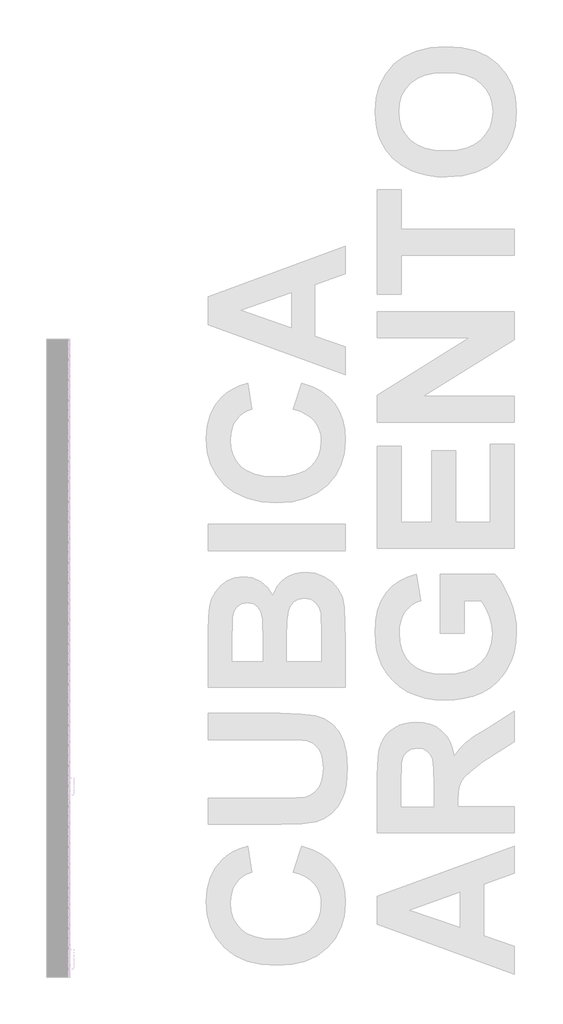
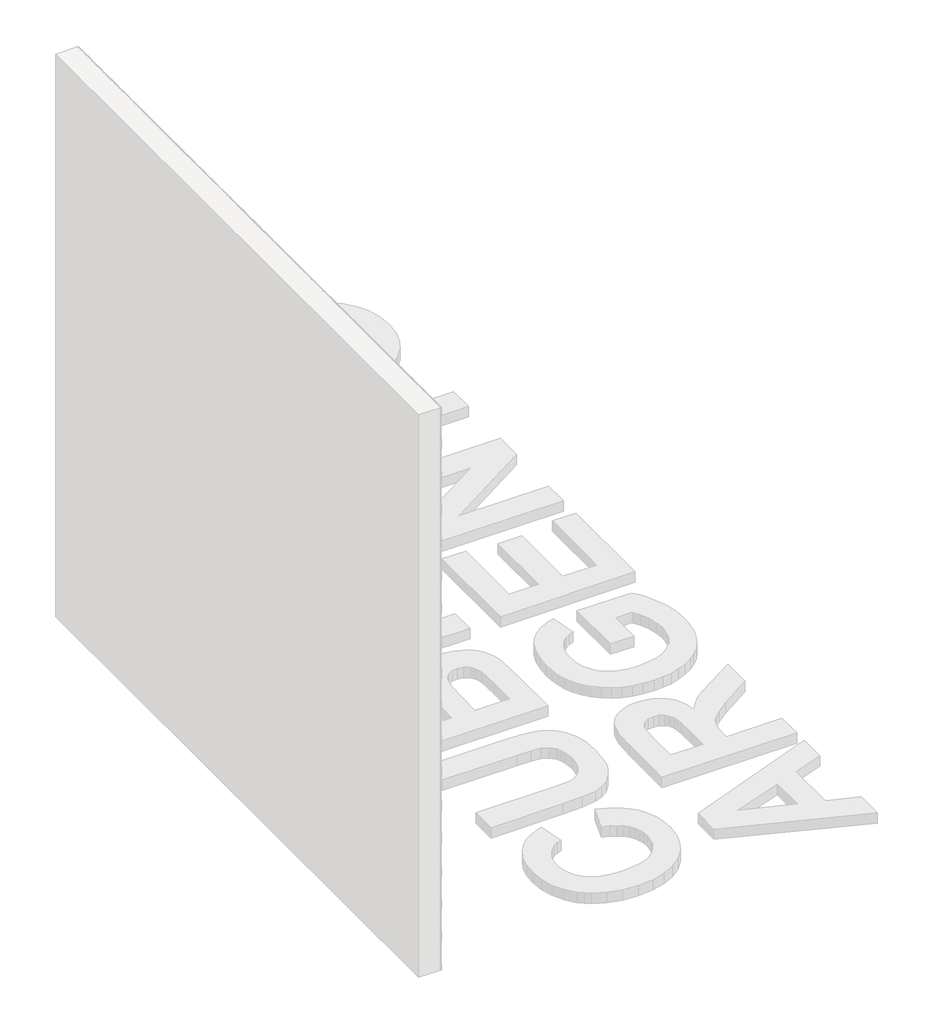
# One storey, part 15 of 121: 145 proxies.
"""IFC4 building model written with IfcOpenShell, lengths in millimetres."""

from ifc_helpers import new_model, si_unit, origin, place, context, project, spatial, transform, mapped, element, save
from components import generic_models_b2b2c5c1, generic_models_9bf73f6f, generic_models_5d175859

model = new_model("IFC4")

# Units and contexts
model_context = context("Model", 3, world=origin())
ifc_project = project(units=[si_unit("LENGTHUNIT", "METRE", prefix="MILLI")], contexts=[model_context])

# Site, building, storey
site = spatial("IfcSite", under=ifc_project)
building = spatial("IfcBuilding", under=site)
storey = spatial("IfcBuildingStorey", under=building, Name="PORTOBELLO - SHOWROOM", Elevation=0.0)

# Proxies
placement = place(None, origin())
generic_models_shape = generic_models_b2b2c5c1(model_context)
element("IfcBuildingElementProxy", 1, Name="PBSHOP - CUBICA ARGENTO 4,8X8,3 : CUBICA ARGENTO - POSIÇÃO 01", ObjectType="PBSHOP - CUBICA ARGENTO 4,8X8,3 : CUBICA ARGENTO - POSIÇÃO 01", at=placement, inside=storey, context=model_context, shape_type="MappedRepresentation", body=[
    mapped(generic_models_shape, transform((150369.5341846, -4995.4435811, 749.8339122), x_axis=(0.0, 1.0, 0.0), y_axis=(0.0, 0.0, 1.0), z_axis=(1.0, 0.0, 0.0))),
])
element("IfcBuildingElementProxy", 2, Name="PBSHOP - CUBICA ARGENTO 4,8X8,3 : CUBICA ARGENTO - POSIÇÃO 01", ObjectType="PBSHOP - CUBICA ARGENTO 4,8X8,3 : CUBICA ARGENTO - POSIÇÃO 01", at=placement, inside=storey, context=model_context, shape_type="MappedRepresentation", body=[
    mapped(generic_models_shape, transform((150369.5341846, -4904.6043119, 749.8339122), x_axis=(0.0, 1.0, 0.0), y_axis=(0.0, 0.0, 1.0), z_axis=(1.0, 0.0, 0.0))),
])
element("IfcBuildingElementProxy", 3, Name="PBSHOP - CUBICA ARGENTO 4,8X8,3 : CUBICA ARGENTO - POSIÇÃO 01", ObjectType="PBSHOP - CUBICA ARGENTO 4,8X8,3 : CUBICA ARGENTO - POSIÇÃO 01", at=placement, inside=storey, context=model_context, shape_type="MappedRepresentation", body=[
    mapped(generic_models_shape, transform((150369.5341846, -4813.7650427, 749.8339122), x_axis=(0.0, 1.0, 0.0), y_axis=(0.0, 0.0, 1.0), z_axis=(1.0, 0.0, 0.0))),
])
element("IfcBuildingElementProxy", 4, Name="PBSHOP - CUBICA ARGENTO 4,8X8,3 : CUBICA ARGENTO - POSIÇÃO 01", ObjectType="PBSHOP - CUBICA ARGENTO 4,8X8,3 : CUBICA ARGENTO - POSIÇÃO 01", at=placement, inside=storey, context=model_context, shape_type="MappedRepresentation", body=[
    mapped(generic_models_shape, transform((150369.5341846, -4722.9257734, 749.8339122), x_axis=(0.0, 1.0, 0.0), y_axis=(0.0, 0.0, 1.0), z_axis=(1.0, 0.0, 0.0))),
])
element("IfcBuildingElementProxy", 5, Name="PBSHOP - CUBICA ARGENTO 4,8X8,3 : CUBICA ARGENTO - POSIÇÃO 01", ObjectType="PBSHOP - CUBICA ARGENTO 4,8X8,3 : CUBICA ARGENTO - POSIÇÃO 01", at=placement, inside=storey, context=model_context, shape_type="MappedRepresentation", body=[
    mapped(generic_models_shape, transform((150369.5341846, -4632.0865042, 749.8339122), x_axis=(0.0, 1.0, 0.0), y_axis=(0.0, 0.0, 1.0), z_axis=(1.0, 0.0, 0.0))),
])
element("IfcBuildingElementProxy", 6, Name="PBSHOP - CUBICA ARGENTO 4,8X8,3 : CUBICA ARGENTO - POSIÇÃO 01", ObjectType="PBSHOP - CUBICA ARGENTO 4,8X8,3 : CUBICA ARGENTO - POSIÇÃO 01", at=placement, inside=storey, context=model_context, shape_type="MappedRepresentation", body=[
    mapped(generic_models_shape, transform((150369.5341846, -4541.2472349, 749.8339122), x_axis=(0.0, 1.0, 0.0), y_axis=(0.0, 0.0, 1.0), z_axis=(1.0, 0.0, 0.0))),
])
element("IfcBuildingElementProxy", 7, Name="PBSHOP - CUBICA ARGENTO 4,8X8,3 : CUBICA ARGENTO - POSIÇÃO 01", ObjectType="PBSHOP - CUBICA ARGENTO 4,8X8,3 : CUBICA ARGENTO - POSIÇÃO 01", at=placement, inside=storey, context=model_context, shape_type="MappedRepresentation", body=[
    mapped(generic_models_shape, transform((150369.5341846, -4450.4079657, 749.8339122), x_axis=(0.0, 1.0, 0.0), y_axis=(0.0, 0.0, 1.0), z_axis=(1.0, 0.0, 0.0))),
])
element("IfcBuildingElementProxy", 8, Name="PBSHOP - CUBICA ARGENTO 4,8X8,3 : CUBICA ARGENTO - POSIÇÃO 01", ObjectType="PBSHOP - CUBICA ARGENTO 4,8X8,3 : CUBICA ARGENTO - POSIÇÃO 01", at=placement, inside=storey, context=model_context, shape_type="MappedRepresentation", body=[
    mapped(generic_models_shape, transform((150369.5341846, -4359.5686964, 749.8339122), x_axis=(0.0, 1.0, 0.0), y_axis=(0.0, 0.0, 1.0), z_axis=(1.0, 0.0, 0.0))),
])
element("IfcBuildingElementProxy", 9, Name="PBSHOP - CUBICA ARGENTO 4,8X8,3 : CUBICA ARGENTO - POSIÇÃO 01", ObjectType="PBSHOP - CUBICA ARGENTO 4,8X8,3 : CUBICA ARGENTO - POSIÇÃO 01", at=placement, inside=storey, context=model_context, shape_type="MappedRepresentation", body=[
    mapped(generic_models_shape, transform((150369.5341846, -4268.7294272, 749.8339122), x_axis=(0.0, 1.0, 0.0), y_axis=(0.0, 0.0, 1.0), z_axis=(1.0, 0.0, 0.0))),
])
element("IfcBuildingElementProxy", 10, Name="PBSHOP - CUBICA ARGENTO 4,8X8,3 : CUBICA ARGENTO - POSIÇÃO 01", ObjectType="PBSHOP - CUBICA ARGENTO 4,8X8,3 : CUBICA ARGENTO - POSIÇÃO 01", at=placement, inside=storey, context=model_context, shape_type="MappedRepresentation", body=[
    mapped(generic_models_shape, transform((150369.5341846, -4177.890158, 749.8339122), x_axis=(0.0, 1.0, 0.0), y_axis=(0.0, 0.0, 1.0), z_axis=(1.0, 0.0, 0.0))),
])
element("IfcBuildingElementProxy", 11, Name="PBSHOP - CUBICA ARGENTO 4,8X8,3 : CUBICA ARGENTO - POSIÇÃO 01", ObjectType="PBSHOP - CUBICA ARGENTO 4,8X8,3 : CUBICA ARGENTO - POSIÇÃO 01", at=placement, inside=storey, context=model_context, shape_type="MappedRepresentation", body=[
    mapped(generic_models_shape, transform((150369.5341846, -4087.0508887, 749.8339122), x_axis=(0.0, 1.0, 0.0), y_axis=(0.0, 0.0, 1.0), z_axis=(1.0, 0.0, 0.0))),
])
element("IfcBuildingElementProxy", 12, Name="PBSHOP - CUBICA ARGENTO 4,8X8,3 : CUBICA ARGENTO - POSIÇÃO 01", ObjectType="PBSHOP - CUBICA ARGENTO 4,8X8,3 : CUBICA ARGENTO - POSIÇÃO 01", at=placement, inside=storey, context=model_context, shape_type="MappedRepresentation", body=[
    mapped(generic_models_shape, transform((150369.5341846, -4950.0239465, 828.7685506), x_axis=(0.0, 1.0, 0.0), y_axis=(0.0, 0.0, 1.0), z_axis=(1.0, 0.0, 0.0))),
])
element("IfcBuildingElementProxy", 13, Name="PBSHOP - CUBICA ARGENTO 4,8X8,3 : CUBICA ARGENTO - POSIÇÃO 01", ObjectType="PBSHOP - CUBICA ARGENTO 4,8X8,3 : CUBICA ARGENTO - POSIÇÃO 01", at=placement, inside=storey, context=model_context, shape_type="MappedRepresentation", body=[
    mapped(generic_models_shape, transform((150369.5341846, -4859.1846773, 828.7685506), x_axis=(0.0, 1.0, 0.0), y_axis=(0.0, 0.0, 1.0), z_axis=(1.0, 0.0, 0.0))),
])
element("IfcBuildingElementProxy", 14, Name="PBSHOP - CUBICA ARGENTO 4,8X8,3 : CUBICA ARGENTO - POSIÇÃO 01", ObjectType="PBSHOP - CUBICA ARGENTO 4,8X8,3 : CUBICA ARGENTO - POSIÇÃO 01", at=placement, inside=storey, context=model_context, shape_type="MappedRepresentation", body=[
    mapped(generic_models_shape, transform((150369.5341846, -4768.345408, 828.7685506), x_axis=(0.0, 1.0, 0.0), y_axis=(0.0, 0.0, 1.0), z_axis=(1.0, 0.0, 0.0))),
])
element("IfcBuildingElementProxy", 15, Name="PBSHOP - CUBICA ARGENTO 4,8X8,3 : CUBICA ARGENTO - POSIÇÃO 01", ObjectType="PBSHOP - CUBICA ARGENTO 4,8X8,3 : CUBICA ARGENTO - POSIÇÃO 01", at=placement, inside=storey, context=model_context, shape_type="MappedRepresentation", body=[
    mapped(generic_models_shape, transform((150369.5341846, -4677.5061388, 828.7685506), x_axis=(0.0, 1.0, 0.0), y_axis=(0.0, 0.0, 1.0), z_axis=(1.0, 0.0, 0.0))),
])
element("IfcBuildingElementProxy", 16, Name="PBSHOP - CUBICA ARGENTO 4,8X8,3 : CUBICA ARGENTO - POSIÇÃO 01", ObjectType="PBSHOP - CUBICA ARGENTO 4,8X8,3 : CUBICA ARGENTO - POSIÇÃO 01", at=placement, inside=storey, context=model_context, shape_type="MappedRepresentation", body=[
    mapped(generic_models_shape, transform((150369.5341846, -4586.6668696, 828.7685506), x_axis=(0.0, 1.0, 0.0), y_axis=(0.0, 0.0, 1.0), z_axis=(1.0, 0.0, 0.0))),
])
element("IfcBuildingElementProxy", 17, Name="PBSHOP - CUBICA ARGENTO 4,8X8,3 : CUBICA ARGENTO - POSIÇÃO 01", ObjectType="PBSHOP - CUBICA ARGENTO 4,8X8,3 : CUBICA ARGENTO - POSIÇÃO 01", at=placement, inside=storey, context=model_context, shape_type="MappedRepresentation", body=[
    mapped(generic_models_shape, transform((150369.5341846, -4495.8276003, 828.7685506), x_axis=(0.0, 1.0, 0.0), y_axis=(0.0, 0.0, 1.0), z_axis=(1.0, 0.0, 0.0))),
])
element("IfcBuildingElementProxy", 18, Name="PBSHOP - CUBICA ARGENTO 4,8X8,3 : CUBICA ARGENTO - POSIÇÃO 01", ObjectType="PBSHOP - CUBICA ARGENTO 4,8X8,3 : CUBICA ARGENTO - POSIÇÃO 01", at=placement, inside=storey, context=model_context, shape_type="MappedRepresentation", body=[
    mapped(generic_models_shape, transform((150369.5341846, -4404.9883311, 828.7685506), x_axis=(0.0, 1.0, 0.0), y_axis=(0.0, 0.0, 1.0), z_axis=(1.0, 0.0, 0.0))),
])
element("IfcBuildingElementProxy", 19, Name="PBSHOP - CUBICA ARGENTO 4,8X8,3 : CUBICA ARGENTO - POSIÇÃO 01", ObjectType="PBSHOP - CUBICA ARGENTO 4,8X8,3 : CUBICA ARGENTO - POSIÇÃO 01", at=placement, inside=storey, context=model_context, shape_type="MappedRepresentation", body=[
    mapped(generic_models_shape, transform((150369.5341846, -4314.1490618, 828.7685506), x_axis=(0.0, 1.0, 0.0), y_axis=(0.0, 0.0, 1.0), z_axis=(1.0, 0.0, 0.0))),
])
element("IfcBuildingElementProxy", 20, Name="PBSHOP - CUBICA ARGENTO 4,8X8,3 : CUBICA ARGENTO - POSIÇÃO 01", ObjectType="PBSHOP - CUBICA ARGENTO 4,8X8,3 : CUBICA ARGENTO - POSIÇÃO 01", at=placement, inside=storey, context=model_context, shape_type="MappedRepresentation", body=[
    mapped(generic_models_shape, transform((150369.5341846, -4223.3097926, 828.7685506), x_axis=(0.0, 1.0, 0.0), y_axis=(0.0, 0.0, 1.0), z_axis=(1.0, 0.0, 0.0))),
])
element("IfcBuildingElementProxy", 21, Name="PBSHOP - CUBICA ARGENTO 4,8X8,3 : CUBICA ARGENTO - POSIÇÃO 01", ObjectType="PBSHOP - CUBICA ARGENTO 4,8X8,3 : CUBICA ARGENTO - POSIÇÃO 01", at=placement, inside=storey, context=model_context, shape_type="MappedRepresentation", body=[
    mapped(generic_models_shape, transform((150369.5341846, -4132.4705233, 828.7685506), x_axis=(0.0, 1.0, 0.0), y_axis=(0.0, 0.0, 1.0), z_axis=(1.0, 0.0, 0.0))),
])
element("IfcBuildingElementProxy", 22, Name="PBSHOP - CUBICA ARGENTO 4,8X8,3 : CUBICA ARGENTO - POSIÇÃO 01", ObjectType="PBSHOP - CUBICA ARGENTO 4,8X8,3 : CUBICA ARGENTO - POSIÇÃO 01", at=placement, inside=storey, context=model_context, shape_type="MappedRepresentation", body=[
    mapped(generic_models_shape, transform((150369.5341846, -4041.6312541, 828.7685506), x_axis=(0.0, 1.0, 0.0), y_axis=(0.0, 0.0, 1.0), z_axis=(1.0, 0.0, 0.0))),
])
element("IfcBuildingElementProxy", 23, Name="PBSHOP - CUBICA ARGENTO 4,8X8,3 : CUBICA ARGENTO - POSIÇÃO 01", ObjectType="PBSHOP - CUBICA ARGENTO 4,8X8,3 : CUBICA ARGENTO - POSIÇÃO 01", at=placement, inside=storey, context=model_context, shape_type="MappedRepresentation", body=[
    mapped(generic_models_shape, transform((150369.5341846, -4995.4435811, 907.7031889), x_axis=(0.0, 1.0, 0.0), y_axis=(0.0, 0.0, 1.0), z_axis=(1.0, 0.0, 0.0))),
])
element("IfcBuildingElementProxy", 24, Name="PBSHOP - CUBICA ARGENTO 4,8X8,3 : CUBICA ARGENTO - POSIÇÃO 01", ObjectType="PBSHOP - CUBICA ARGENTO 4,8X8,3 : CUBICA ARGENTO - POSIÇÃO 01", at=placement, inside=storey, context=model_context, shape_type="MappedRepresentation", body=[
    mapped(generic_models_shape, transform((150369.5341846, -4904.6043119, 907.7031889), x_axis=(0.0, 1.0, 0.0), y_axis=(0.0, 0.0, 1.0), z_axis=(1.0, 0.0, 0.0))),
])
element("IfcBuildingElementProxy", 25, Name="PBSHOP - CUBICA ARGENTO 4,8X8,3 : CUBICA ARGENTO - POSIÇÃO 01", ObjectType="PBSHOP - CUBICA ARGENTO 4,8X8,3 : CUBICA ARGENTO - POSIÇÃO 01", at=placement, inside=storey, context=model_context, shape_type="MappedRepresentation", body=[
    mapped(generic_models_shape, transform((150369.5341846, -4813.7650427, 907.7031889), x_axis=(0.0, 1.0, 0.0), y_axis=(0.0, 0.0, 1.0), z_axis=(1.0, 0.0, 0.0))),
])
element("IfcBuildingElementProxy", 26, Name="PBSHOP - CUBICA ARGENTO 4,8X8,3 : CUBICA ARGENTO - POSIÇÃO 01", ObjectType="PBSHOP - CUBICA ARGENTO 4,8X8,3 : CUBICA ARGENTO - POSIÇÃO 01", at=placement, inside=storey, context=model_context, shape_type="MappedRepresentation", body=[
    mapped(generic_models_shape, transform((150369.5341846, -4722.9257734, 907.7031889), x_axis=(0.0, 1.0, 0.0), y_axis=(0.0, 0.0, 1.0), z_axis=(1.0, 0.0, 0.0))),
])
element("IfcBuildingElementProxy", 27, Name="PBSHOP - CUBICA ARGENTO 4,8X8,3 : CUBICA ARGENTO - POSIÇÃO 01", ObjectType="PBSHOP - CUBICA ARGENTO 4,8X8,3 : CUBICA ARGENTO - POSIÇÃO 01", at=placement, inside=storey, context=model_context, shape_type="MappedRepresentation", body=[
    mapped(generic_models_shape, transform((150369.5341846, -4632.0865042, 907.7031889), x_axis=(0.0, 1.0, 0.0), y_axis=(0.0, 0.0, 1.0), z_axis=(1.0, 0.0, 0.0))),
])
element("IfcBuildingElementProxy", 28, Name="PBSHOP - CUBICA ARGENTO 4,8X8,3 : CUBICA ARGENTO - POSIÇÃO 01", ObjectType="PBSHOP - CUBICA ARGENTO 4,8X8,3 : CUBICA ARGENTO - POSIÇÃO 01", at=placement, inside=storey, context=model_context, shape_type="MappedRepresentation", body=[
    mapped(generic_models_shape, transform((150369.5341846, -4541.2472349, 907.7031889), x_axis=(0.0, 1.0, 0.0), y_axis=(0.0, 0.0, 1.0), z_axis=(1.0, 0.0, 0.0))),
])
element("IfcBuildingElementProxy", 29, Name="PBSHOP - CUBICA ARGENTO 4,8X8,3 : CUBICA ARGENTO - POSIÇÃO 01", ObjectType="PBSHOP - CUBICA ARGENTO 4,8X8,3 : CUBICA ARGENTO - POSIÇÃO 01", at=placement, inside=storey, context=model_context, shape_type="MappedRepresentation", body=[
    mapped(generic_models_shape, transform((150369.5341846, -4450.4079657, 907.7031889), x_axis=(0.0, 1.0, 0.0), y_axis=(0.0, 0.0, 1.0), z_axis=(1.0, 0.0, 0.0))),
])
element("IfcBuildingElementProxy", 30, Name="PBSHOP - CUBICA ARGENTO 4,8X8,3 : CUBICA ARGENTO - POSIÇÃO 01", ObjectType="PBSHOP - CUBICA ARGENTO 4,8X8,3 : CUBICA ARGENTO - POSIÇÃO 01", at=placement, inside=storey, context=model_context, shape_type="MappedRepresentation", body=[
    mapped(generic_models_shape, transform((150369.5341846, -4359.5686964, 907.7031889), x_axis=(0.0, 1.0, 0.0), y_axis=(0.0, 0.0, 1.0), z_axis=(1.0, 0.0, 0.0))),
])
element("IfcBuildingElementProxy", 31, Name="PBSHOP - CUBICA ARGENTO 4,8X8,3 : CUBICA ARGENTO - POSIÇÃO 01", ObjectType="PBSHOP - CUBICA ARGENTO 4,8X8,3 : CUBICA ARGENTO - POSIÇÃO 01", at=placement, inside=storey, context=model_context, shape_type="MappedRepresentation", body=[
    mapped(generic_models_shape, transform((150369.5341846, -4268.7294272, 907.7031889), x_axis=(0.0, 1.0, 0.0), y_axis=(0.0, 0.0, 1.0), z_axis=(1.0, 0.0, 0.0))),
])
element("IfcBuildingElementProxy", 32, Name="PBSHOP - CUBICA ARGENTO 4,8X8,3 : CUBICA ARGENTO - POSIÇÃO 01", ObjectType="PBSHOP - CUBICA ARGENTO 4,8X8,3 : CUBICA ARGENTO - POSIÇÃO 01", at=placement, inside=storey, context=model_context, shape_type="MappedRepresentation", body=[
    mapped(generic_models_shape, transform((150369.5341846, -4177.890158, 907.7031889), x_axis=(0.0, 1.0, 0.0), y_axis=(0.0, 0.0, 1.0), z_axis=(1.0, 0.0, 0.0))),
])
element("IfcBuildingElementProxy", 33, Name="PBSHOP - CUBICA ARGENTO 4,8X8,3 : CUBICA ARGENTO - POSIÇÃO 01", ObjectType="PBSHOP - CUBICA ARGENTO 4,8X8,3 : CUBICA ARGENTO - POSIÇÃO 01", at=placement, inside=storey, context=model_context, shape_type="MappedRepresentation", body=[
    mapped(generic_models_shape, transform((150369.5341846, -4087.0508887, 907.7031889), x_axis=(0.0, 1.0, 0.0), y_axis=(0.0, 0.0, 1.0), z_axis=(1.0, 0.0, 0.0))),
])
element("IfcBuildingElementProxy", 34, Name="PBSHOP - CUBICA ARGENTO 4,8X8,3 : CUBICA ARGENTO - POSIÇÃO 01", ObjectType="PBSHOP - CUBICA ARGENTO 4,8X8,3 : CUBICA ARGENTO - POSIÇÃO 01", at=placement, inside=storey, context=model_context, shape_type="MappedRepresentation", body=[
    mapped(generic_models_shape, transform((150369.5341846, -4950.0239465, 986.6378273), x_axis=(0.0, 1.0, 0.0), y_axis=(0.0, 0.0, 1.0), z_axis=(1.0, 0.0, 0.0))),
])
element("IfcBuildingElementProxy", 35, Name="PBSHOP - CUBICA ARGENTO 4,8X8,3 : CUBICA ARGENTO - POSIÇÃO 01", ObjectType="PBSHOP - CUBICA ARGENTO 4,8X8,3 : CUBICA ARGENTO - POSIÇÃO 01", at=placement, inside=storey, context=model_context, shape_type="MappedRepresentation", body=[
    mapped(generic_models_shape, transform((150369.5341846, -4859.1846773, 986.6378273), x_axis=(0.0, 1.0, 0.0), y_axis=(0.0, 0.0, 1.0), z_axis=(1.0, 0.0, 0.0))),
])
element("IfcBuildingElementProxy", 36, Name="PBSHOP - CUBICA ARGENTO 4,8X8,3 : CUBICA ARGENTO - POSIÇÃO 01", ObjectType="PBSHOP - CUBICA ARGENTO 4,8X8,3 : CUBICA ARGENTO - POSIÇÃO 01", at=placement, inside=storey, context=model_context, shape_type="MappedRepresentation", body=[
    mapped(generic_models_shape, transform((150369.5341846, -4768.345408, 986.6378273), x_axis=(0.0, 1.0, 0.0), y_axis=(0.0, 0.0, 1.0), z_axis=(1.0, 0.0, 0.0))),
])
element("IfcBuildingElementProxy", 37, Name="PBSHOP - CUBICA ARGENTO 4,8X8,3 : CUBICA ARGENTO - POSIÇÃO 01", ObjectType="PBSHOP - CUBICA ARGENTO 4,8X8,3 : CUBICA ARGENTO - POSIÇÃO 01", at=placement, inside=storey, context=model_context, shape_type="MappedRepresentation", body=[
    mapped(generic_models_shape, transform((150369.5341846, -4677.5061388, 986.6378273), x_axis=(0.0, 1.0, 0.0), y_axis=(0.0, 0.0, 1.0), z_axis=(1.0, 0.0, 0.0))),
])
element("IfcBuildingElementProxy", 38, Name="PBSHOP - CUBICA ARGENTO 4,8X8,3 : CUBICA ARGENTO - POSIÇÃO 01", ObjectType="PBSHOP - CUBICA ARGENTO 4,8X8,3 : CUBICA ARGENTO - POSIÇÃO 01", at=placement, inside=storey, context=model_context, shape_type="MappedRepresentation", body=[
    mapped(generic_models_shape, transform((150369.5341846, -4586.6668696, 986.6378273), x_axis=(0.0, 1.0, 0.0), y_axis=(0.0, 0.0, 1.0), z_axis=(1.0, 0.0, 0.0))),
])
element("IfcBuildingElementProxy", 39, Name="PBSHOP - CUBICA ARGENTO 4,8X8,3 : CUBICA ARGENTO - POSIÇÃO 01", ObjectType="PBSHOP - CUBICA ARGENTO 4,8X8,3 : CUBICA ARGENTO - POSIÇÃO 01", at=placement, inside=storey, context=model_context, shape_type="MappedRepresentation", body=[
    mapped(generic_models_shape, transform((150369.5341846, -4495.8276003, 986.6378273), x_axis=(0.0, 1.0, 0.0), y_axis=(0.0, 0.0, 1.0), z_axis=(1.0, 0.0, 0.0))),
])
element("IfcBuildingElementProxy", 40, Name="PBSHOP - CUBICA ARGENTO 4,8X8,3 : CUBICA ARGENTO - POSIÇÃO 01", ObjectType="PBSHOP - CUBICA ARGENTO 4,8X8,3 : CUBICA ARGENTO - POSIÇÃO 01", at=placement, inside=storey, context=model_context, shape_type="MappedRepresentation", body=[
    mapped(generic_models_shape, transform((150369.5341846, -4404.9883311, 986.6378273), x_axis=(0.0, 1.0, 0.0), y_axis=(0.0, 0.0, 1.0), z_axis=(1.0, 0.0, 0.0))),
])
element("IfcBuildingElementProxy", 41, Name="PBSHOP - CUBICA ARGENTO 4,8X8,3 : CUBICA ARGENTO - POSIÇÃO 01", ObjectType="PBSHOP - CUBICA ARGENTO 4,8X8,3 : CUBICA ARGENTO - POSIÇÃO 01", at=placement, inside=storey, context=model_context, shape_type="MappedRepresentation", body=[
    mapped(generic_models_shape, transform((150369.5341846, -4314.1490618, 986.6378273), x_axis=(0.0, 1.0, 0.0), y_axis=(0.0, 0.0, 1.0), z_axis=(1.0, 0.0, 0.0))),
])
element("IfcBuildingElementProxy", 42, Name="PBSHOP - CUBICA ARGENTO 4,8X8,3 : CUBICA ARGENTO - POSIÇÃO 01", ObjectType="PBSHOP - CUBICA ARGENTO 4,8X8,3 : CUBICA ARGENTO - POSIÇÃO 01", at=placement, inside=storey, context=model_context, shape_type="MappedRepresentation", body=[
    mapped(generic_models_shape, transform((150369.5341846, -4223.3097926, 986.6378273), x_axis=(0.0, 1.0, 0.0), y_axis=(0.0, 0.0, 1.0), z_axis=(1.0, 0.0, 0.0))),
])
element("IfcBuildingElementProxy", 43, Name="PBSHOP - CUBICA ARGENTO 4,8X8,3 : CUBICA ARGENTO - POSIÇÃO 01", ObjectType="PBSHOP - CUBICA ARGENTO 4,8X8,3 : CUBICA ARGENTO - POSIÇÃO 01", at=placement, inside=storey, context=model_context, shape_type="MappedRepresentation", body=[
    mapped(generic_models_shape, transform((150369.5341846, -4132.4705233, 986.6378273), x_axis=(0.0, 1.0, 0.0), y_axis=(0.0, 0.0, 1.0), z_axis=(1.0, 0.0, 0.0))),
])
element("IfcBuildingElementProxy", 44, Name="PBSHOP - CUBICA ARGENTO 4,8X8,3 : CUBICA ARGENTO - POSIÇÃO 01", ObjectType="PBSHOP - CUBICA ARGENTO 4,8X8,3 : CUBICA ARGENTO - POSIÇÃO 01", at=placement, inside=storey, context=model_context, shape_type="MappedRepresentation", body=[
    mapped(generic_models_shape, transform((150369.5341846, -4041.6312541, 986.6378273), x_axis=(0.0, 1.0, 0.0), y_axis=(0.0, 0.0, 1.0), z_axis=(1.0, 0.0, 0.0))),
])
element("IfcBuildingElementProxy", 45, Name="PBSHOP - CUBICA ARGENTO 4,8X8,3 : CUBICA ARGENTO - POSIÇÃO 01", ObjectType="PBSHOP - CUBICA ARGENTO 4,8X8,3 : CUBICA ARGENTO - POSIÇÃO 01", at=placement, inside=storey, context=model_context, shape_type="MappedRepresentation", body=[
    mapped(generic_models_shape, transform((150369.5341846, -4995.4435811, 1065.5724657), x_axis=(0.0, 1.0, 0.0), y_axis=(0.0, 0.0, 1.0), z_axis=(1.0, 0.0, 0.0))),
])
element("IfcBuildingElementProxy", 46, Name="PBSHOP - CUBICA ARGENTO 4,8X8,3 : CUBICA ARGENTO - POSIÇÃO 01", ObjectType="PBSHOP - CUBICA ARGENTO 4,8X8,3 : CUBICA ARGENTO - POSIÇÃO 01", at=placement, inside=storey, context=model_context, shape_type="MappedRepresentation", body=[
    mapped(generic_models_shape, transform((150369.5341846, -4904.6043119, 1065.5724657), x_axis=(0.0, 1.0, 0.0), y_axis=(0.0, 0.0, 1.0), z_axis=(1.0, 0.0, 0.0))),
])
element("IfcBuildingElementProxy", 47, Name="PBSHOP - CUBICA ARGENTO 4,8X8,3 : CUBICA ARGENTO - POSIÇÃO 01", ObjectType="PBSHOP - CUBICA ARGENTO 4,8X8,3 : CUBICA ARGENTO - POSIÇÃO 01", at=placement, inside=storey, context=model_context, shape_type="MappedRepresentation", body=[
    mapped(generic_models_shape, transform((150369.5341846, -4813.7650427, 1065.5724657), x_axis=(0.0, 1.0, 0.0), y_axis=(0.0, 0.0, 1.0), z_axis=(1.0, 0.0, 0.0))),
])
element("IfcBuildingElementProxy", 48, Name="PBSHOP - CUBICA ARGENTO 4,8X8,3 : CUBICA ARGENTO - POSIÇÃO 01", ObjectType="PBSHOP - CUBICA ARGENTO 4,8X8,3 : CUBICA ARGENTO - POSIÇÃO 01", at=placement, inside=storey, context=model_context, shape_type="MappedRepresentation", body=[
    mapped(generic_models_shape, transform((150369.5341846, -4722.9257734, 1065.5724657), x_axis=(0.0, 1.0, 0.0), y_axis=(0.0, 0.0, 1.0), z_axis=(1.0, 0.0, 0.0))),
])
element("IfcBuildingElementProxy", 49, Name="PBSHOP - CUBICA ARGENTO 4,8X8,3 : CUBICA ARGENTO - POSIÇÃO 01", ObjectType="PBSHOP - CUBICA ARGENTO 4,8X8,3 : CUBICA ARGENTO - POSIÇÃO 01", at=placement, inside=storey, context=model_context, shape_type="MappedRepresentation", body=[
    mapped(generic_models_shape, transform((150369.5341846, -4632.0865042, 1065.5724657), x_axis=(0.0, 1.0, 0.0), y_axis=(0.0, 0.0, 1.0), z_axis=(1.0, 0.0, 0.0))),
])
generic_models_2_shape = generic_models_9bf73f6f(model_context)
element("IfcBuildingElementProxy", 50, Name="PBSHOP - CUBICA ARGENTO 4,8X8,3 : CUBICA ARGENTO - POSIÇÃO 03", ObjectType="PBSHOP - CUBICA ARGENTO 4,8X8,3 : CUBICA ARGENTO - POSIÇÃO 03", at=placement, inside=storey, context=model_context, shape_type="MappedRepresentation", body=[
    mapped(generic_models_2_shape, transform((150369.5341846, -4246.0174507, 631.3907442), x_axis=(0.0, 1.0, 0.0), y_axis=(0.0, 0.0, 1.0), z_axis=(1.0, 0.0, 0.0))),
])
element("IfcBuildingElementProxy", 51, Name="PBSHOP - CUBICA ARGENTO 4,8X8,3 : CUBICA ARGENTO - POSIÇÃO 03", ObjectType="PBSHOP - CUBICA ARGENTO 4,8X8,3 : CUBICA ARGENTO - POSIÇÃO 03", at=placement, inside=storey, context=model_context, shape_type="MappedRepresentation", body=[
    mapped(generic_models_2_shape, transform((150369.5341846, -4155.1781815, 631.3907442), x_axis=(0.0, 1.0, 0.0), y_axis=(0.0, 0.0, 1.0), z_axis=(1.0, 0.0, 0.0))),
])
element("IfcBuildingElementProxy", 52, Name="PBSHOP - CUBICA ARGENTO 4,8X8,3 : CUBICA ARGENTO - POSIÇÃO 03", ObjectType="PBSHOP - CUBICA ARGENTO 4,8X8,3 : CUBICA ARGENTO - POSIÇÃO 03", at=placement, inside=storey, context=model_context, shape_type="MappedRepresentation", body=[
    mapped(generic_models_2_shape, transform((150369.5341846, -4064.3389122, 631.3907442), x_axis=(0.0, 1.0, 0.0), y_axis=(0.0, 0.0, 1.0), z_axis=(1.0, 0.0, 0.0))),
])
element("IfcBuildingElementProxy", 53, Name="PBSHOP - CUBICA ARGENTO 4,8X8,3 : CUBICA ARGENTO - POSIÇÃO 03", ObjectType="PBSHOP - CUBICA ARGENTO 4,8X8,3 : CUBICA ARGENTO - POSIÇÃO 03", at=placement, inside=storey, context=model_context, shape_type="MappedRepresentation", body=[
    mapped(generic_models_2_shape, transform((150369.5341846, -4927.3119701, 710.3253826), x_axis=(0.0, 1.0, 0.0), y_axis=(0.0, 0.0, 1.0), z_axis=(1.0, 0.0, 0.0))),
])
element("IfcBuildingElementProxy", 54, Name="PBSHOP - CUBICA ARGENTO 4,8X8,3 : CUBICA ARGENTO - POSIÇÃO 03", ObjectType="PBSHOP - CUBICA ARGENTO 4,8X8,3 : CUBICA ARGENTO - POSIÇÃO 03", at=placement, inside=storey, context=model_context, shape_type="MappedRepresentation", body=[
    mapped(generic_models_2_shape, transform((150369.5341846, -4836.4727008, 710.3253826), x_axis=(0.0, 1.0, 0.0), y_axis=(0.0, 0.0, 1.0), z_axis=(1.0, 0.0, 0.0))),
])
element("IfcBuildingElementProxy", 55, Name="PBSHOP - CUBICA ARGENTO 4,8X8,3 : CUBICA ARGENTO - POSIÇÃO 03", ObjectType="PBSHOP - CUBICA ARGENTO 4,8X8,3 : CUBICA ARGENTO - POSIÇÃO 03", at=placement, inside=storey, context=model_context, shape_type="MappedRepresentation", body=[
    mapped(generic_models_2_shape, transform((150369.5341846, -4745.6334316, 710.3253826), x_axis=(0.0, 1.0, 0.0), y_axis=(0.0, 0.0, 1.0), z_axis=(1.0, 0.0, 0.0))),
])
element("IfcBuildingElementProxy", 56, Name="PBSHOP - CUBICA ARGENTO 4,8X8,3 : CUBICA ARGENTO - POSIÇÃO 03", ObjectType="PBSHOP - CUBICA ARGENTO 4,8X8,3 : CUBICA ARGENTO - POSIÇÃO 03", at=placement, inside=storey, context=model_context, shape_type="MappedRepresentation", body=[
    mapped(generic_models_2_shape, transform((150369.5341846, -4654.7941623, 710.3253826), x_axis=(0.0, 1.0, 0.0), y_axis=(0.0, 0.0, 1.0), z_axis=(1.0, 0.0, 0.0))),
])
element("IfcBuildingElementProxy", 57, Name="PBSHOP - CUBICA ARGENTO 4,8X8,3 : CUBICA ARGENTO - POSIÇÃO 03", ObjectType="PBSHOP - CUBICA ARGENTO 4,8X8,3 : CUBICA ARGENTO - POSIÇÃO 03", at=placement, inside=storey, context=model_context, shape_type="MappedRepresentation", body=[
    mapped(generic_models_2_shape, transform((150369.5341846, -4563.9548931, 710.3253826), x_axis=(0.0, 1.0, 0.0), y_axis=(0.0, 0.0, 1.0), z_axis=(1.0, 0.0, 0.0))),
])
element("IfcBuildingElementProxy", 58, Name="PBSHOP - CUBICA ARGENTO 4,8X8,3 : CUBICA ARGENTO - POSIÇÃO 03", ObjectType="PBSHOP - CUBICA ARGENTO 4,8X8,3 : CUBICA ARGENTO - POSIÇÃO 03", at=placement, inside=storey, context=model_context, shape_type="MappedRepresentation", body=[
    mapped(generic_models_2_shape, transform((150369.5341846, -4473.1156238, 710.3253826), x_axis=(0.0, 1.0, 0.0), y_axis=(0.0, 0.0, 1.0), z_axis=(1.0, 0.0, 0.0))),
])
element("IfcBuildingElementProxy", 59, Name="PBSHOP - CUBICA ARGENTO 4,8X8,3 : CUBICA ARGENTO - POSIÇÃO 03", ObjectType="PBSHOP - CUBICA ARGENTO 4,8X8,3 : CUBICA ARGENTO - POSIÇÃO 03", at=placement, inside=storey, context=model_context, shape_type="MappedRepresentation", body=[
    mapped(generic_models_2_shape, transform((150369.5341846, -4382.2763546, 710.3253826), x_axis=(0.0, 1.0, 0.0), y_axis=(0.0, 0.0, 1.0), z_axis=(1.0, 0.0, 0.0))),
])
element("IfcBuildingElementProxy", 60, Name="PBSHOP - CUBICA ARGENTO 4,8X8,3 : CUBICA ARGENTO - POSIÇÃO 03", ObjectType="PBSHOP - CUBICA ARGENTO 4,8X8,3 : CUBICA ARGENTO - POSIÇÃO 03", at=placement, inside=storey, context=model_context, shape_type="MappedRepresentation", body=[
    mapped(generic_models_2_shape, transform((150369.5341846, -4291.4370853, 710.3253826), x_axis=(0.0, 1.0, 0.0), y_axis=(0.0, 0.0, 1.0), z_axis=(1.0, 0.0, 0.0))),
])
element("IfcBuildingElementProxy", 61, Name="PBSHOP - CUBICA ARGENTO 4,8X8,3 : CUBICA ARGENTO - POSIÇÃO 03", ObjectType="PBSHOP - CUBICA ARGENTO 4,8X8,3 : CUBICA ARGENTO - POSIÇÃO 03", at=placement, inside=storey, context=model_context, shape_type="MappedRepresentation", body=[
    mapped(generic_models_2_shape, transform((150369.5341846, -4200.5978161, 710.3253826), x_axis=(0.0, 1.0, 0.0), y_axis=(0.0, 0.0, 1.0), z_axis=(1.0, 0.0, 0.0))),
])
element("IfcBuildingElementProxy", 62, Name="PBSHOP - CUBICA ARGENTO 4,8X8,3 : CUBICA ARGENTO - POSIÇÃO 03", ObjectType="PBSHOP - CUBICA ARGENTO 4,8X8,3 : CUBICA ARGENTO - POSIÇÃO 03", at=placement, inside=storey, context=model_context, shape_type="MappedRepresentation", body=[
    mapped(generic_models_2_shape, transform((150369.5341846, -4109.7585469, 710.3253826), x_axis=(0.0, 1.0, 0.0), y_axis=(0.0, 0.0, 1.0), z_axis=(1.0, 0.0, 0.0))),
])
element("IfcBuildingElementProxy", 63, Name="PBSHOP - CUBICA ARGENTO 4,8X8,3 : CUBICA ARGENTO - POSIÇÃO 03", ObjectType="PBSHOP - CUBICA ARGENTO 4,8X8,3 : CUBICA ARGENTO - POSIÇÃO 03", at=placement, inside=storey, context=model_context, shape_type="MappedRepresentation", body=[
    mapped(generic_models_2_shape, transform((150369.5341846, -4018.9192776, 710.3253826), x_axis=(0.0, 1.0, 0.0), y_axis=(0.0, 0.0, 1.0), z_axis=(1.0, 0.0, 0.0))),
])
element("IfcBuildingElementProxy", 64, Name="PBSHOP - CUBICA ARGENTO 4,8X8,3 : CUBICA ARGENTO - POSIÇÃO 03", ObjectType="PBSHOP - CUBICA ARGENTO 4,8X8,3 : CUBICA ARGENTO - POSIÇÃO 03", at=placement, inside=storey, context=model_context, shape_type="MappedRepresentation", body=[
    mapped(generic_models_2_shape, transform((150369.5341846, -4972.7316047, 789.2600209), x_axis=(0.0, 1.0, 0.0), y_axis=(0.0, 0.0, 1.0), z_axis=(1.0, 0.0, 0.0))),
])
element("IfcBuildingElementProxy", 65, Name="PBSHOP - CUBICA ARGENTO 4,8X8,3 : CUBICA ARGENTO - POSIÇÃO 03", ObjectType="PBSHOP - CUBICA ARGENTO 4,8X8,3 : CUBICA ARGENTO - POSIÇÃO 03", at=placement, inside=storey, context=model_context, shape_type="MappedRepresentation", body=[
    mapped(generic_models_2_shape, transform((150369.5341846, -4881.8923354, 789.2600209), x_axis=(0.0, 1.0, 0.0), y_axis=(0.0, 0.0, 1.0), z_axis=(1.0, 0.0, 0.0))),
])
element("IfcBuildingElementProxy", 66, Name="PBSHOP - CUBICA ARGENTO 4,8X8,3 : CUBICA ARGENTO - POSIÇÃO 03", ObjectType="PBSHOP - CUBICA ARGENTO 4,8X8,3 : CUBICA ARGENTO - POSIÇÃO 03", at=placement, inside=storey, context=model_context, shape_type="MappedRepresentation", body=[
    mapped(generic_models_2_shape, transform((150369.5341846, -4791.0530662, 789.2600209), x_axis=(0.0, 1.0, 0.0), y_axis=(0.0, 0.0, 1.0), z_axis=(1.0, 0.0, 0.0))),
])
element("IfcBuildingElementProxy", 67, Name="PBSHOP - CUBICA ARGENTO 4,8X8,3 : CUBICA ARGENTO - POSIÇÃO 03", ObjectType="PBSHOP - CUBICA ARGENTO 4,8X8,3 : CUBICA ARGENTO - POSIÇÃO 03", at=placement, inside=storey, context=model_context, shape_type="MappedRepresentation", body=[
    mapped(generic_models_2_shape, transform((150369.5341846, -4700.2137969, 789.2600209), x_axis=(0.0, 1.0, 0.0), y_axis=(0.0, 0.0, 1.0), z_axis=(1.0, 0.0, 0.0))),
])
element("IfcBuildingElementProxy", 68, Name="PBSHOP - CUBICA ARGENTO 4,8X8,3 : CUBICA ARGENTO - POSIÇÃO 03", ObjectType="PBSHOP - CUBICA ARGENTO 4,8X8,3 : CUBICA ARGENTO - POSIÇÃO 03", at=placement, inside=storey, context=model_context, shape_type="MappedRepresentation", body=[
    mapped(generic_models_2_shape, transform((150369.5341846, -4609.3745277, 789.2600209), x_axis=(0.0, 1.0, 0.0), y_axis=(0.0, 0.0, 1.0), z_axis=(1.0, 0.0, 0.0))),
])
element("IfcBuildingElementProxy", 69, Name="PBSHOP - CUBICA ARGENTO 4,8X8,3 : CUBICA ARGENTO - POSIÇÃO 03", ObjectType="PBSHOP - CUBICA ARGENTO 4,8X8,3 : CUBICA ARGENTO - POSIÇÃO 03", at=placement, inside=storey, context=model_context, shape_type="MappedRepresentation", body=[
    mapped(generic_models_2_shape, transform((150369.5341846, -4518.5352585, 789.2600209), x_axis=(0.0, 1.0, 0.0), y_axis=(0.0, 0.0, 1.0), z_axis=(1.0, 0.0, 0.0))),
])
element("IfcBuildingElementProxy", 70, Name="PBSHOP - CUBICA ARGENTO 4,8X8,3 : CUBICA ARGENTO - POSIÇÃO 03", ObjectType="PBSHOP - CUBICA ARGENTO 4,8X8,3 : CUBICA ARGENTO - POSIÇÃO 03", at=placement, inside=storey, context=model_context, shape_type="MappedRepresentation", body=[
    mapped(generic_models_2_shape, transform((150369.5341846, -4427.6959892, 789.2600209), x_axis=(0.0, 1.0, 0.0), y_axis=(0.0, 0.0, 1.0), z_axis=(1.0, 0.0, 0.0))),
])
element("IfcBuildingElementProxy", 71, Name="PBSHOP - CUBICA ARGENTO 4,8X8,3 : CUBICA ARGENTO - POSIÇÃO 03", ObjectType="PBSHOP - CUBICA ARGENTO 4,8X8,3 : CUBICA ARGENTO - POSIÇÃO 03", at=placement, inside=storey, context=model_context, shape_type="MappedRepresentation", body=[
    mapped(generic_models_2_shape, transform((150369.5341846, -4336.85672, 789.2600209), x_axis=(0.0, 1.0, 0.0), y_axis=(0.0, 0.0, 1.0), z_axis=(1.0, 0.0, 0.0))),
])
element("IfcBuildingElementProxy", 72, Name="PBSHOP - CUBICA ARGENTO 4,8X8,3 : CUBICA ARGENTO - POSIÇÃO 03", ObjectType="PBSHOP - CUBICA ARGENTO 4,8X8,3 : CUBICA ARGENTO - POSIÇÃO 03", at=placement, inside=storey, context=model_context, shape_type="MappedRepresentation", body=[
    mapped(generic_models_2_shape, transform((150369.5341846, -4246.0174507, 789.2600209), x_axis=(0.0, 1.0, 0.0), y_axis=(0.0, 0.0, 1.0), z_axis=(1.0, 0.0, 0.0))),
])
element("IfcBuildingElementProxy", 73, Name="PBSHOP - CUBICA ARGENTO 4,8X8,3 : CUBICA ARGENTO - POSIÇÃO 03", ObjectType="PBSHOP - CUBICA ARGENTO 4,8X8,3 : CUBICA ARGENTO - POSIÇÃO 03", at=placement, inside=storey, context=model_context, shape_type="MappedRepresentation", body=[
    mapped(generic_models_2_shape, transform((150369.5341846, -4155.1781815, 789.2600209), x_axis=(0.0, 1.0, 0.0), y_axis=(0.0, 0.0, 1.0), z_axis=(1.0, 0.0, 0.0))),
])
element("IfcBuildingElementProxy", 74, Name="PBSHOP - CUBICA ARGENTO 4,8X8,3 : CUBICA ARGENTO - POSIÇÃO 03", ObjectType="PBSHOP - CUBICA ARGENTO 4,8X8,3 : CUBICA ARGENTO - POSIÇÃO 03", at=placement, inside=storey, context=model_context, shape_type="MappedRepresentation", body=[
    mapped(generic_models_2_shape, transform((150369.5341846, -4064.3389122, 789.2600209), x_axis=(0.0, 1.0, 0.0), y_axis=(0.0, 0.0, 1.0), z_axis=(1.0, 0.0, 0.0))),
])
element("IfcBuildingElementProxy", 75, Name="PBSHOP - CUBICA ARGENTO 4,8X8,3 : CUBICA ARGENTO - POSIÇÃO 03", ObjectType="PBSHOP - CUBICA ARGENTO 4,8X8,3 : CUBICA ARGENTO - POSIÇÃO 03", at=placement, inside=storey, context=model_context, shape_type="MappedRepresentation", body=[
    mapped(generic_models_2_shape, transform((150369.5341846, -4927.3119701, 868.1946593), x_axis=(0.0, 1.0, 0.0), y_axis=(0.0, 0.0, 1.0), z_axis=(1.0, 0.0, 0.0))),
])
element("IfcBuildingElementProxy", 76, Name="PBSHOP - CUBICA ARGENTO 4,8X8,3 : CUBICA ARGENTO - POSIÇÃO 03", ObjectType="PBSHOP - CUBICA ARGENTO 4,8X8,3 : CUBICA ARGENTO - POSIÇÃO 03", at=placement, inside=storey, context=model_context, shape_type="MappedRepresentation", body=[
    mapped(generic_models_2_shape, transform((150369.5341846, -4836.4727008, 868.1946593), x_axis=(0.0, 1.0, 0.0), y_axis=(0.0, 0.0, 1.0), z_axis=(1.0, 0.0, 0.0))),
])
element("IfcBuildingElementProxy", 77, Name="PBSHOP - CUBICA ARGENTO 4,8X8,3 : CUBICA ARGENTO - POSIÇÃO 03", ObjectType="PBSHOP - CUBICA ARGENTO 4,8X8,3 : CUBICA ARGENTO - POSIÇÃO 03", at=placement, inside=storey, context=model_context, shape_type="MappedRepresentation", body=[
    mapped(generic_models_2_shape, transform((150369.5341846, -4745.6334316, 868.1946593), x_axis=(0.0, 1.0, 0.0), y_axis=(0.0, 0.0, 1.0), z_axis=(1.0, 0.0, 0.0))),
])
element("IfcBuildingElementProxy", 78, Name="PBSHOP - CUBICA ARGENTO 4,8X8,3 : CUBICA ARGENTO - POSIÇÃO 03", ObjectType="PBSHOP - CUBICA ARGENTO 4,8X8,3 : CUBICA ARGENTO - POSIÇÃO 03", at=placement, inside=storey, context=model_context, shape_type="MappedRepresentation", body=[
    mapped(generic_models_2_shape, transform((150369.5341846, -4654.7941623, 868.1946593), x_axis=(0.0, 1.0, 0.0), y_axis=(0.0, 0.0, 1.0), z_axis=(1.0, 0.0, 0.0))),
])
element("IfcBuildingElementProxy", 79, Name="PBSHOP - CUBICA ARGENTO 4,8X8,3 : CUBICA ARGENTO - POSIÇÃO 03", ObjectType="PBSHOP - CUBICA ARGENTO 4,8X8,3 : CUBICA ARGENTO - POSIÇÃO 03", at=placement, inside=storey, context=model_context, shape_type="MappedRepresentation", body=[
    mapped(generic_models_2_shape, transform((150369.5341846, -4563.9548931, 868.1946593), x_axis=(0.0, 1.0, 0.0), y_axis=(0.0, 0.0, 1.0), z_axis=(1.0, 0.0, 0.0))),
])
element("IfcBuildingElementProxy", 80, Name="PBSHOP - CUBICA ARGENTO 4,8X8,3 : CUBICA ARGENTO - POSIÇÃO 03", ObjectType="PBSHOP - CUBICA ARGENTO 4,8X8,3 : CUBICA ARGENTO - POSIÇÃO 03", at=placement, inside=storey, context=model_context, shape_type="MappedRepresentation", body=[
    mapped(generic_models_2_shape, transform((150369.5341846, -4473.1156238, 868.1946593), x_axis=(0.0, 1.0, 0.0), y_axis=(0.0, 0.0, 1.0), z_axis=(1.0, 0.0, 0.0))),
])
element("IfcBuildingElementProxy", 81, Name="PBSHOP - CUBICA ARGENTO 4,8X8,3 : CUBICA ARGENTO - POSIÇÃO 03", ObjectType="PBSHOP - CUBICA ARGENTO 4,8X8,3 : CUBICA ARGENTO - POSIÇÃO 03", at=placement, inside=storey, context=model_context, shape_type="MappedRepresentation", body=[
    mapped(generic_models_2_shape, transform((150369.5341846, -4382.2763546, 868.1946593), x_axis=(0.0, 1.0, 0.0), y_axis=(0.0, 0.0, 1.0), z_axis=(1.0, 0.0, 0.0))),
])
element("IfcBuildingElementProxy", 82, Name="PBSHOP - CUBICA ARGENTO 4,8X8,3 : CUBICA ARGENTO - POSIÇÃO 03", ObjectType="PBSHOP - CUBICA ARGENTO 4,8X8,3 : CUBICA ARGENTO - POSIÇÃO 03", at=placement, inside=storey, context=model_context, shape_type="MappedRepresentation", body=[
    mapped(generic_models_2_shape, transform((150369.5341846, -4291.4370853, 868.1946593), x_axis=(0.0, 1.0, 0.0), y_axis=(0.0, 0.0, 1.0), z_axis=(1.0, 0.0, 0.0))),
])
element("IfcBuildingElementProxy", 83, Name="PBSHOP - CUBICA ARGENTO 4,8X8,3 : CUBICA ARGENTO - POSIÇÃO 03", ObjectType="PBSHOP - CUBICA ARGENTO 4,8X8,3 : CUBICA ARGENTO - POSIÇÃO 03", at=placement, inside=storey, context=model_context, shape_type="MappedRepresentation", body=[
    mapped(generic_models_2_shape, transform((150369.5341846, -4200.5978161, 868.1946593), x_axis=(0.0, 1.0, 0.0), y_axis=(0.0, 0.0, 1.0), z_axis=(1.0, 0.0, 0.0))),
])
element("IfcBuildingElementProxy", 84, Name="PBSHOP - CUBICA ARGENTO 4,8X8,3 : CUBICA ARGENTO - POSIÇÃO 03", ObjectType="PBSHOP - CUBICA ARGENTO 4,8X8,3 : CUBICA ARGENTO - POSIÇÃO 03", at=placement, inside=storey, context=model_context, shape_type="MappedRepresentation", body=[
    mapped(generic_models_2_shape, transform((150369.5341846, -4109.7585469, 868.1946593), x_axis=(0.0, 1.0, 0.0), y_axis=(0.0, 0.0, 1.0), z_axis=(1.0, 0.0, 0.0))),
])
element("IfcBuildingElementProxy", 85, Name="PBSHOP - CUBICA ARGENTO 4,8X8,3 : CUBICA ARGENTO - POSIÇÃO 03", ObjectType="PBSHOP - CUBICA ARGENTO 4,8X8,3 : CUBICA ARGENTO - POSIÇÃO 03", at=placement, inside=storey, context=model_context, shape_type="MappedRepresentation", body=[
    mapped(generic_models_2_shape, transform((150369.5341846, -4018.9192776, 868.1946593), x_axis=(0.0, 1.0, 0.0), y_axis=(0.0, 0.0, 1.0), z_axis=(1.0, 0.0, 0.0))),
])
element("IfcBuildingElementProxy", 86, Name="PBSHOP - CUBICA ARGENTO 4,8X8,3 : CUBICA ARGENTO - POSIÇÃO 03", ObjectType="PBSHOP - CUBICA ARGENTO 4,8X8,3 : CUBICA ARGENTO - POSIÇÃO 03", at=placement, inside=storey, context=model_context, shape_type="MappedRepresentation", body=[
    mapped(generic_models_2_shape, transform((150369.5341846, -4972.7316047, 947.1292977), x_axis=(0.0, 1.0, 0.0), y_axis=(0.0, 0.0, 1.0), z_axis=(1.0, 0.0, 0.0))),
])
element("IfcBuildingElementProxy", 87, Name="PBSHOP - CUBICA ARGENTO 4,8X8,3 : CUBICA ARGENTO - POSIÇÃO 03", ObjectType="PBSHOP - CUBICA ARGENTO 4,8X8,3 : CUBICA ARGENTO - POSIÇÃO 03", at=placement, inside=storey, context=model_context, shape_type="MappedRepresentation", body=[
    mapped(generic_models_2_shape, transform((150369.5341846, -4881.8923354, 947.1292977), x_axis=(0.0, 1.0, 0.0), y_axis=(0.0, 0.0, 1.0), z_axis=(1.0, 0.0, 0.0))),
])
element("IfcBuildingElementProxy", 88, Name="PBSHOP - CUBICA ARGENTO 4,8X8,3 : CUBICA ARGENTO - POSIÇÃO 03", ObjectType="PBSHOP - CUBICA ARGENTO 4,8X8,3 : CUBICA ARGENTO - POSIÇÃO 03", at=placement, inside=storey, context=model_context, shape_type="MappedRepresentation", body=[
    mapped(generic_models_2_shape, transform((150369.5341846, -4791.0530662, 947.1292977), x_axis=(0.0, 1.0, 0.0), y_axis=(0.0, 0.0, 1.0), z_axis=(1.0, 0.0, 0.0))),
])
element("IfcBuildingElementProxy", 89, Name="PBSHOP - CUBICA ARGENTO 4,8X8,3 : CUBICA ARGENTO - POSIÇÃO 03", ObjectType="PBSHOP - CUBICA ARGENTO 4,8X8,3 : CUBICA ARGENTO - POSIÇÃO 03", at=placement, inside=storey, context=model_context, shape_type="MappedRepresentation", body=[
    mapped(generic_models_2_shape, transform((150369.5341846, -4700.2137969, 947.1292977), x_axis=(0.0, 1.0, 0.0), y_axis=(0.0, 0.0, 1.0), z_axis=(1.0, 0.0, 0.0))),
])
element("IfcBuildingElementProxy", 90, Name="PBSHOP - CUBICA ARGENTO 4,8X8,3 : CUBICA ARGENTO - POSIÇÃO 03", ObjectType="PBSHOP - CUBICA ARGENTO 4,8X8,3 : CUBICA ARGENTO - POSIÇÃO 03", at=placement, inside=storey, context=model_context, shape_type="MappedRepresentation", body=[
    mapped(generic_models_2_shape, transform((150369.5341846, -4609.3745277, 947.1292977), x_axis=(0.0, 1.0, 0.0), y_axis=(0.0, 0.0, 1.0), z_axis=(1.0, 0.0, 0.0))),
])
element("IfcBuildingElementProxy", 91, Name="PBSHOP - CUBICA ARGENTO 4,8X8,3 : CUBICA ARGENTO - POSIÇÃO 03", ObjectType="PBSHOP - CUBICA ARGENTO 4,8X8,3 : CUBICA ARGENTO - POSIÇÃO 03", at=placement, inside=storey, context=model_context, shape_type="MappedRepresentation", body=[
    mapped(generic_models_2_shape, transform((150369.5341846, -4518.5352585, 947.1292977), x_axis=(0.0, 1.0, 0.0), y_axis=(0.0, 0.0, 1.0), z_axis=(1.0, 0.0, 0.0))),
])
element("IfcBuildingElementProxy", 92, Name="PBSHOP - CUBICA ARGENTO 4,8X8,3 : CUBICA ARGENTO - POSIÇÃO 03", ObjectType="PBSHOP - CUBICA ARGENTO 4,8X8,3 : CUBICA ARGENTO - POSIÇÃO 03", at=placement, inside=storey, context=model_context, shape_type="MappedRepresentation", body=[
    mapped(generic_models_2_shape, transform((150369.5341846, -4427.6959892, 947.1292977), x_axis=(0.0, 1.0, 0.0), y_axis=(0.0, 0.0, 1.0), z_axis=(1.0, 0.0, 0.0))),
])
element("IfcBuildingElementProxy", 93, Name="PBSHOP - CUBICA ARGENTO 4,8X8,3 : CUBICA ARGENTO - POSIÇÃO 03", ObjectType="PBSHOP - CUBICA ARGENTO 4,8X8,3 : CUBICA ARGENTO - POSIÇÃO 03", at=placement, inside=storey, context=model_context, shape_type="MappedRepresentation", body=[
    mapped(generic_models_2_shape, transform((150369.5341846, -4336.85672, 947.1292977), x_axis=(0.0, 1.0, 0.0), y_axis=(0.0, 0.0, 1.0), z_axis=(1.0, 0.0, 0.0))),
])
element("IfcBuildingElementProxy", 94, Name="PBSHOP - CUBICA ARGENTO 4,8X8,3 : CUBICA ARGENTO - POSIÇÃO 03", ObjectType="PBSHOP - CUBICA ARGENTO 4,8X8,3 : CUBICA ARGENTO - POSIÇÃO 03", at=placement, inside=storey, context=model_context, shape_type="MappedRepresentation", body=[
    mapped(generic_models_2_shape, transform((150369.5341846, -4246.0174507, 947.1292977), x_axis=(0.0, 1.0, 0.0), y_axis=(0.0, 0.0, 1.0), z_axis=(1.0, 0.0, 0.0))),
])
element("IfcBuildingElementProxy", 95, Name="PBSHOP - CUBICA ARGENTO 4,8X8,3 : CUBICA ARGENTO - POSIÇÃO 03", ObjectType="PBSHOP - CUBICA ARGENTO 4,8X8,3 : CUBICA ARGENTO - POSIÇÃO 03", at=placement, inside=storey, context=model_context, shape_type="MappedRepresentation", body=[
    mapped(generic_models_2_shape, transform((150369.5341846, -4155.1781815, 947.1292977), x_axis=(0.0, 1.0, 0.0), y_axis=(0.0, 0.0, 1.0), z_axis=(1.0, 0.0, 0.0))),
])
element("IfcBuildingElementProxy", 96, Name="PBSHOP - CUBICA ARGENTO 4,8X8,3 : CUBICA ARGENTO - POSIÇÃO 03", ObjectType="PBSHOP - CUBICA ARGENTO 4,8X8,3 : CUBICA ARGENTO - POSIÇÃO 03", at=placement, inside=storey, context=model_context, shape_type="MappedRepresentation", body=[
    mapped(generic_models_2_shape, transform((150369.5341846, -4064.3389122, 947.1292977), x_axis=(0.0, 1.0, 0.0), y_axis=(0.0, 0.0, 1.0), z_axis=(1.0, 0.0, 0.0))),
])
generic_models_3_shape = generic_models_5d175859(model_context)
element("IfcBuildingElementProxy", 97, Name="PBSHOP - CUBICA ARGENTO 4,8X8,3 : CUBICA ARGENTO - POSIÇÃO 01", ObjectType="PBSHOP - CUBICA ARGENTO 4,8X8,3 : CUBICA ARGENTO - POSIÇÃO 01", at=placement, inside=storey, context=model_context, shape_type="MappedRepresentation", body=[
    mapped(generic_models_3_shape, transform((150369.5341846, -4950.0196282, 749.8339122), x_axis=(0.0, -1.0, 0.0), y_axis=(0.0, 0.0, -1.0), z_axis=(1.0, 0.0, 0.0))),
])
element("IfcBuildingElementProxy", 98, Name="PBSHOP - CUBICA ARGENTO 4,8X8,3 : CUBICA ARGENTO - POSIÇÃO 01", ObjectType="PBSHOP - CUBICA ARGENTO 4,8X8,3 : CUBICA ARGENTO - POSIÇÃO 01", at=placement, inside=storey, context=model_context, shape_type="MappedRepresentation", body=[
    mapped(generic_models_3_shape, transform((150369.5341846, -4859.180359, 749.8339122), x_axis=(0.0, -1.0, 0.0), y_axis=(0.0, 0.0, -1.0), z_axis=(1.0, 0.0, 0.0))),
])
element("IfcBuildingElementProxy", 99, Name="PBSHOP - CUBICA ARGENTO 4,8X8,3 : CUBICA ARGENTO - POSIÇÃO 01", ObjectType="PBSHOP - CUBICA ARGENTO 4,8X8,3 : CUBICA ARGENTO - POSIÇÃO 01", at=placement, inside=storey, context=model_context, shape_type="MappedRepresentation", body=[
    mapped(generic_models_3_shape, transform((150369.5341846, -4768.3410897, 749.8339122), x_axis=(0.0, -1.0, 0.0), y_axis=(0.0, 0.0, -1.0), z_axis=(1.0, 0.0, 0.0))),
])
element("IfcBuildingElementProxy", 100, Name="PBSHOP - CUBICA ARGENTO 4,8X8,3 : CUBICA ARGENTO - POSIÇÃO 01", ObjectType="PBSHOP - CUBICA ARGENTO 4,8X8,3 : CUBICA ARGENTO - POSIÇÃO 01", at=placement, inside=storey, context=model_context, shape_type="MappedRepresentation", body=[
    mapped(generic_models_3_shape, transform((150369.5341846, -4677.5018205, 749.8339122), x_axis=(0.0, -1.0, 0.0), y_axis=(0.0, 0.0, -1.0), z_axis=(1.0, 0.0, 0.0))),
])
element("IfcBuildingElementProxy", 101, Name="PBSHOP - CUBICA ARGENTO 4,8X8,3 : CUBICA ARGENTO - POSIÇÃO 01", ObjectType="PBSHOP - CUBICA ARGENTO 4,8X8,3 : CUBICA ARGENTO - POSIÇÃO 01", at=placement, inside=storey, context=model_context, shape_type="MappedRepresentation", body=[
    mapped(generic_models_3_shape, transform((150369.5341846, -4586.6625512, 749.8339122), x_axis=(0.0, -1.0, 0.0), y_axis=(0.0, 0.0, -1.0), z_axis=(1.0, 0.0, 0.0))),
])
element("IfcBuildingElementProxy", 102, Name="PBSHOP - CUBICA ARGENTO 4,8X8,3 : CUBICA ARGENTO - POSIÇÃO 01", ObjectType="PBSHOP - CUBICA ARGENTO 4,8X8,3 : CUBICA ARGENTO - POSIÇÃO 01", at=placement, inside=storey, context=model_context, shape_type="MappedRepresentation", body=[
    mapped(generic_models_3_shape, transform((150369.5341846, -4495.823282, 749.8339122), x_axis=(0.0, -1.0, 0.0), y_axis=(0.0, 0.0, -1.0), z_axis=(1.0, 0.0, 0.0))),
])
element("IfcBuildingElementProxy", 103, Name="PBSHOP - CUBICA ARGENTO 4,8X8,3 : CUBICA ARGENTO - POSIÇÃO 01", ObjectType="PBSHOP - CUBICA ARGENTO 4,8X8,3 : CUBICA ARGENTO - POSIÇÃO 01", at=placement, inside=storey, context=model_context, shape_type="MappedRepresentation", body=[
    mapped(generic_models_3_shape, transform((150369.5341846, -4404.9840127, 749.8339122), x_axis=(0.0, -1.0, 0.0), y_axis=(0.0, 0.0, -1.0), z_axis=(1.0, 0.0, 0.0))),
])
element("IfcBuildingElementProxy", 104, Name="PBSHOP - CUBICA ARGENTO 4,8X8,3 : CUBICA ARGENTO - POSIÇÃO 01", ObjectType="PBSHOP - CUBICA ARGENTO 4,8X8,3 : CUBICA ARGENTO - POSIÇÃO 01", at=placement, inside=storey, context=model_context, shape_type="MappedRepresentation", body=[
    mapped(generic_models_3_shape, transform((150369.5341846, -4314.1447435, 749.8339122), x_axis=(0.0, -1.0, 0.0), y_axis=(0.0, 0.0, -1.0), z_axis=(1.0, 0.0, 0.0))),
])
element("IfcBuildingElementProxy", 105, Name="PBSHOP - CUBICA ARGENTO 4,8X8,3 : CUBICA ARGENTO - POSIÇÃO 01", ObjectType="PBSHOP - CUBICA ARGENTO 4,8X8,3 : CUBICA ARGENTO - POSIÇÃO 01", at=placement, inside=storey, context=model_context, shape_type="MappedRepresentation", body=[
    mapped(generic_models_3_shape, transform((150369.5341846, -4223.3054742, 749.8339122), x_axis=(0.0, -1.0, 0.0), y_axis=(0.0, 0.0, -1.0), z_axis=(1.0, 0.0, 0.0))),
])
element("IfcBuildingElementProxy", 106, Name="PBSHOP - CUBICA ARGENTO 4,8X8,3 : CUBICA ARGENTO - POSIÇÃO 01", ObjectType="PBSHOP - CUBICA ARGENTO 4,8X8,3 : CUBICA ARGENTO - POSIÇÃO 01", at=placement, inside=storey, context=model_context, shape_type="MappedRepresentation", body=[
    mapped(generic_models_3_shape, transform((150369.5341846, -4132.466205, 749.8339122), x_axis=(0.0, -1.0, 0.0), y_axis=(0.0, 0.0, -1.0), z_axis=(1.0, 0.0, 0.0))),
])
element("IfcBuildingElementProxy", 107, Name="PBSHOP - CUBICA ARGENTO 4,8X8,3 : CUBICA ARGENTO - POSIÇÃO 01", ObjectType="PBSHOP - CUBICA ARGENTO 4,8X8,3 : CUBICA ARGENTO - POSIÇÃO 01", at=placement, inside=storey, context=model_context, shape_type="MappedRepresentation", body=[
    mapped(generic_models_3_shape, transform((150369.5341846, -4041.6269358, 749.8339122), x_axis=(0.0, -1.0, 0.0), y_axis=(0.0, 0.0, -1.0), z_axis=(1.0, 0.0, 0.0))),
])
element("IfcBuildingElementProxy", 108, Name="PBSHOP - CUBICA ARGENTO 4,8X8,3 : CUBICA ARGENTO - POSIÇÃO 01", ObjectType="PBSHOP - CUBICA ARGENTO 4,8X8,3 : CUBICA ARGENTO - POSIÇÃO 01", at=placement, inside=storey, context=model_context, shape_type="MappedRepresentation", body=[
    mapped(generic_models_3_shape, transform((150369.5341846, -4995.4392628, 828.7685506), x_axis=(0.0, -1.0, 0.0), y_axis=(0.0, 0.0, -1.0), z_axis=(1.0, 0.0, 0.0))),
])
element("IfcBuildingElementProxy", 109, Name="PBSHOP - CUBICA ARGENTO 4,8X8,3 : CUBICA ARGENTO - POSIÇÃO 01", ObjectType="PBSHOP - CUBICA ARGENTO 4,8X8,3 : CUBICA ARGENTO - POSIÇÃO 01", at=placement, inside=storey, context=model_context, shape_type="MappedRepresentation", body=[
    mapped(generic_models_3_shape, transform((150369.5341846, -4904.5999936, 828.7685506), x_axis=(0.0, -1.0, 0.0), y_axis=(0.0, 0.0, -1.0), z_axis=(1.0, 0.0, 0.0))),
])
element("IfcBuildingElementProxy", 110, Name="PBSHOP - CUBICA ARGENTO 4,8X8,3 : CUBICA ARGENTO - POSIÇÃO 01", ObjectType="PBSHOP - CUBICA ARGENTO 4,8X8,3 : CUBICA ARGENTO - POSIÇÃO 01", at=placement, inside=storey, context=model_context, shape_type="MappedRepresentation", body=[
    mapped(generic_models_3_shape, transform((150369.5341846, -4813.7607243, 828.7685506), x_axis=(0.0, -1.0, 0.0), y_axis=(0.0, 0.0, -1.0), z_axis=(1.0, 0.0, 0.0))),
])
element("IfcBuildingElementProxy", 111, Name="PBSHOP - CUBICA ARGENTO 4,8X8,3 : CUBICA ARGENTO - POSIÇÃO 01", ObjectType="PBSHOP - CUBICA ARGENTO 4,8X8,3 : CUBICA ARGENTO - POSIÇÃO 01", at=placement, inside=storey, context=model_context, shape_type="MappedRepresentation", body=[
    mapped(generic_models_3_shape, transform((150369.5341846, -4722.9214551, 828.7685506), x_axis=(0.0, -1.0, 0.0), y_axis=(0.0, 0.0, -1.0), z_axis=(1.0, 0.0, 0.0))),
])
element("IfcBuildingElementProxy", 112, Name="PBSHOP - CUBICA ARGENTO 4,8X8,3 : CUBICA ARGENTO - POSIÇÃO 01", ObjectType="PBSHOP - CUBICA ARGENTO 4,8X8,3 : CUBICA ARGENTO - POSIÇÃO 01", at=placement, inside=storey, context=model_context, shape_type="MappedRepresentation", body=[
    mapped(generic_models_3_shape, transform((150369.5341846, -4632.0821858, 828.7685506), x_axis=(0.0, -1.0, 0.0), y_axis=(0.0, 0.0, -1.0), z_axis=(1.0, 0.0, 0.0))),
])
element("IfcBuildingElementProxy", 113, Name="PBSHOP - CUBICA ARGENTO 4,8X8,3 : CUBICA ARGENTO - POSIÇÃO 01", ObjectType="PBSHOP - CUBICA ARGENTO 4,8X8,3 : CUBICA ARGENTO - POSIÇÃO 01", at=placement, inside=storey, context=model_context, shape_type="MappedRepresentation", body=[
    mapped(generic_models_3_shape, transform((150369.5341846, -4541.2429166, 828.7685506), x_axis=(0.0, -1.0, 0.0), y_axis=(0.0, 0.0, -1.0), z_axis=(1.0, 0.0, 0.0))),
])
element("IfcBuildingElementProxy", 114, Name="PBSHOP - CUBICA ARGENTO 4,8X8,3 : CUBICA ARGENTO - POSIÇÃO 01", ObjectType="PBSHOP - CUBICA ARGENTO 4,8X8,3 : CUBICA ARGENTO - POSIÇÃO 01", at=placement, inside=storey, context=model_context, shape_type="MappedRepresentation", body=[
    mapped(generic_models_3_shape, transform((150369.5341846, -4450.4036474, 828.7685506), x_axis=(0.0, -1.0, 0.0), y_axis=(0.0, 0.0, -1.0), z_axis=(1.0, 0.0, 0.0))),
])
element("IfcBuildingElementProxy", 115, Name="PBSHOP - CUBICA ARGENTO 4,8X8,3 : CUBICA ARGENTO - POSIÇÃO 01", ObjectType="PBSHOP - CUBICA ARGENTO 4,8X8,3 : CUBICA ARGENTO - POSIÇÃO 01", at=placement, inside=storey, context=model_context, shape_type="MappedRepresentation", body=[
    mapped(generic_models_3_shape, transform((150369.5341846, -4359.5643781, 828.7685506), x_axis=(0.0, -1.0, 0.0), y_axis=(0.0, 0.0, -1.0), z_axis=(1.0, 0.0, 0.0))),
])
element("IfcBuildingElementProxy", 116, Name="PBSHOP - CUBICA ARGENTO 4,8X8,3 : CUBICA ARGENTO - POSIÇÃO 01", ObjectType="PBSHOP - CUBICA ARGENTO 4,8X8,3 : CUBICA ARGENTO - POSIÇÃO 01", at=placement, inside=storey, context=model_context, shape_type="MappedRepresentation", body=[
    mapped(generic_models_3_shape, transform((150369.5341846, -4268.7251089, 828.7685506), x_axis=(0.0, -1.0, 0.0), y_axis=(0.0, 0.0, -1.0), z_axis=(1.0, 0.0, 0.0))),
])
element("IfcBuildingElementProxy", 117, Name="PBSHOP - CUBICA ARGENTO 4,8X8,3 : CUBICA ARGENTO - POSIÇÃO 01", ObjectType="PBSHOP - CUBICA ARGENTO 4,8X8,3 : CUBICA ARGENTO - POSIÇÃO 01", at=placement, inside=storey, context=model_context, shape_type="MappedRepresentation", body=[
    mapped(generic_models_3_shape, transform((150369.5341846, -4177.8858396, 828.7685506), x_axis=(0.0, -1.0, 0.0), y_axis=(0.0, 0.0, -1.0), z_axis=(1.0, 0.0, 0.0))),
])
element("IfcBuildingElementProxy", 118, Name="PBSHOP - CUBICA ARGENTO 4,8X8,3 : CUBICA ARGENTO - POSIÇÃO 01", ObjectType="PBSHOP - CUBICA ARGENTO 4,8X8,3 : CUBICA ARGENTO - POSIÇÃO 01", at=placement, inside=storey, context=model_context, shape_type="MappedRepresentation", body=[
    mapped(generic_models_3_shape, transform((150369.5341846, -4087.0465704, 828.7685506), x_axis=(0.0, -1.0, 0.0), y_axis=(0.0, 0.0, -1.0), z_axis=(1.0, 0.0, 0.0))),
])
element("IfcBuildingElementProxy", 119, Name="PBSHOP - CUBICA ARGENTO 4,8X8,3 : CUBICA ARGENTO - POSIÇÃO 01", ObjectType="PBSHOP - CUBICA ARGENTO 4,8X8,3 : CUBICA ARGENTO - POSIÇÃO 01", at=placement, inside=storey, context=model_context, shape_type="MappedRepresentation", body=[
    mapped(generic_models_3_shape, transform((150369.5341846, -4950.0196282, 907.7031889), x_axis=(0.0, -1.0, 0.0), y_axis=(0.0, 0.0, -1.0), z_axis=(1.0, 0.0, 0.0))),
])
element("IfcBuildingElementProxy", 120, Name="PBSHOP - CUBICA ARGENTO 4,8X8,3 : CUBICA ARGENTO - POSIÇÃO 01", ObjectType="PBSHOP - CUBICA ARGENTO 4,8X8,3 : CUBICA ARGENTO - POSIÇÃO 01", at=placement, inside=storey, context=model_context, shape_type="MappedRepresentation", body=[
    mapped(generic_models_3_shape, transform((150369.5341846, -4859.180359, 907.7031889), x_axis=(0.0, -1.0, 0.0), y_axis=(0.0, 0.0, -1.0), z_axis=(1.0, 0.0, 0.0))),
])
element("IfcBuildingElementProxy", 121, Name="PBSHOP - CUBICA ARGENTO 4,8X8,3 : CUBICA ARGENTO - POSIÇÃO 01", ObjectType="PBSHOP - CUBICA ARGENTO 4,8X8,3 : CUBICA ARGENTO - POSIÇÃO 01", at=placement, inside=storey, context=model_context, shape_type="MappedRepresentation", body=[
    mapped(generic_models_3_shape, transform((150369.5341846, -4768.3410897, 907.7031889), x_axis=(0.0, -1.0, 0.0), y_axis=(0.0, 0.0, -1.0), z_axis=(1.0, 0.0, 0.0))),
])
element("IfcBuildingElementProxy", 122, Name="PBSHOP - CUBICA ARGENTO 4,8X8,3 : CUBICA ARGENTO - POSIÇÃO 01", ObjectType="PBSHOP - CUBICA ARGENTO 4,8X8,3 : CUBICA ARGENTO - POSIÇÃO 01", at=placement, inside=storey, context=model_context, shape_type="MappedRepresentation", body=[
    mapped(generic_models_3_shape, transform((150369.5341846, -4677.5018205, 907.7031889), x_axis=(0.0, -1.0, 0.0), y_axis=(0.0, 0.0, -1.0), z_axis=(1.0, 0.0, 0.0))),
])
element("IfcBuildingElementProxy", 123, Name="PBSHOP - CUBICA ARGENTO 4,8X8,3 : CUBICA ARGENTO - POSIÇÃO 01", ObjectType="PBSHOP - CUBICA ARGENTO 4,8X8,3 : CUBICA ARGENTO - POSIÇÃO 01", at=placement, inside=storey, context=model_context, shape_type="MappedRepresentation", body=[
    mapped(generic_models_3_shape, transform((150369.5341846, -4586.6625512, 907.7031889), x_axis=(0.0, -1.0, 0.0), y_axis=(0.0, 0.0, -1.0), z_axis=(1.0, 0.0, 0.0))),
])
element("IfcBuildingElementProxy", 124, Name="PBSHOP - CUBICA ARGENTO 4,8X8,3 : CUBICA ARGENTO - POSIÇÃO 01", ObjectType="PBSHOP - CUBICA ARGENTO 4,8X8,3 : CUBICA ARGENTO - POSIÇÃO 01", at=placement, inside=storey, context=model_context, shape_type="MappedRepresentation", body=[
    mapped(generic_models_3_shape, transform((150369.5341846, -4495.823282, 907.7031889), x_axis=(0.0, -1.0, 0.0), y_axis=(0.0, 0.0, -1.0), z_axis=(1.0, 0.0, 0.0))),
])
element("IfcBuildingElementProxy", 125, Name="PBSHOP - CUBICA ARGENTO 4,8X8,3 : CUBICA ARGENTO - POSIÇÃO 01", ObjectType="PBSHOP - CUBICA ARGENTO 4,8X8,3 : CUBICA ARGENTO - POSIÇÃO 01", at=placement, inside=storey, context=model_context, shape_type="MappedRepresentation", body=[
    mapped(generic_models_3_shape, transform((150369.5341846, -4404.9840127, 907.7031889), x_axis=(0.0, -1.0, 0.0), y_axis=(0.0, 0.0, -1.0), z_axis=(1.0, 0.0, 0.0))),
])
element("IfcBuildingElementProxy", 126, Name="PBSHOP - CUBICA ARGENTO 4,8X8,3 : CUBICA ARGENTO - POSIÇÃO 01", ObjectType="PBSHOP - CUBICA ARGENTO 4,8X8,3 : CUBICA ARGENTO - POSIÇÃO 01", at=placement, inside=storey, context=model_context, shape_type="MappedRepresentation", body=[
    mapped(generic_models_3_shape, transform((150369.5341846, -4314.1447435, 907.7031889), x_axis=(0.0, -1.0, 0.0), y_axis=(0.0, 0.0, -1.0), z_axis=(1.0, 0.0, 0.0))),
])
element("IfcBuildingElementProxy", 127, Name="PBSHOP - CUBICA ARGENTO 4,8X8,3 : CUBICA ARGENTO - POSIÇÃO 01", ObjectType="PBSHOP - CUBICA ARGENTO 4,8X8,3 : CUBICA ARGENTO - POSIÇÃO 01", at=placement, inside=storey, context=model_context, shape_type="MappedRepresentation", body=[
    mapped(generic_models_3_shape, transform((150369.5341846, -4223.3054742, 907.7031889), x_axis=(0.0, -1.0, 0.0), y_axis=(0.0, 0.0, -1.0), z_axis=(1.0, 0.0, 0.0))),
])
element("IfcBuildingElementProxy", 128, Name="PBSHOP - CUBICA ARGENTO 4,8X8,3 : CUBICA ARGENTO - POSIÇÃO 01", ObjectType="PBSHOP - CUBICA ARGENTO 4,8X8,3 : CUBICA ARGENTO - POSIÇÃO 01", at=placement, inside=storey, context=model_context, shape_type="MappedRepresentation", body=[
    mapped(generic_models_3_shape, transform((150369.5341846, -4132.466205, 907.7031889), x_axis=(0.0, -1.0, 0.0), y_axis=(0.0, 0.0, -1.0), z_axis=(1.0, 0.0, 0.0))),
])
element("IfcBuildingElementProxy", 129, Name="PBSHOP - CUBICA ARGENTO 4,8X8,3 : CUBICA ARGENTO - POSIÇÃO 01", ObjectType="PBSHOP - CUBICA ARGENTO 4,8X8,3 : CUBICA ARGENTO - POSIÇÃO 01", at=placement, inside=storey, context=model_context, shape_type="MappedRepresentation", body=[
    mapped(generic_models_3_shape, transform((150369.5341846, -4041.6269358, 907.7031889), x_axis=(0.0, -1.0, 0.0), y_axis=(0.0, 0.0, -1.0), z_axis=(1.0, 0.0, 0.0))),
])
element("IfcBuildingElementProxy", 130, Name="PBSHOP - CUBICA ARGENTO 4,8X8,3 : CUBICA ARGENTO - POSIÇÃO 01", ObjectType="PBSHOP - CUBICA ARGENTO 4,8X8,3 : CUBICA ARGENTO - POSIÇÃO 01", at=placement, inside=storey, context=model_context, shape_type="MappedRepresentation", body=[
    mapped(generic_models_3_shape, transform((150369.5341846, -4995.4392628, 986.6378273), x_axis=(0.0, -1.0, 0.0), y_axis=(0.0, 0.0, -1.0), z_axis=(1.0, 0.0, 0.0))),
])
element("IfcBuildingElementProxy", 131, Name="PBSHOP - CUBICA ARGENTO 4,8X8,3 : CUBICA ARGENTO - POSIÇÃO 01", ObjectType="PBSHOP - CUBICA ARGENTO 4,8X8,3 : CUBICA ARGENTO - POSIÇÃO 01", at=placement, inside=storey, context=model_context, shape_type="MappedRepresentation", body=[
    mapped(generic_models_3_shape, transform((150369.5341846, -4904.5999936, 986.6378273), x_axis=(0.0, -1.0, 0.0), y_axis=(0.0, 0.0, -1.0), z_axis=(1.0, 0.0, 0.0))),
])
element("IfcBuildingElementProxy", 132, Name="PBSHOP - CUBICA ARGENTO 4,8X8,3 : CUBICA ARGENTO - POSIÇÃO 01", ObjectType="PBSHOP - CUBICA ARGENTO 4,8X8,3 : CUBICA ARGENTO - POSIÇÃO 01", at=placement, inside=storey, context=model_context, shape_type="MappedRepresentation", body=[
    mapped(generic_models_3_shape, transform((150369.5341846, -4813.7607243, 986.6378273), x_axis=(0.0, -1.0, 0.0), y_axis=(0.0, 0.0, -1.0), z_axis=(1.0, 0.0, 0.0))),
])
element("IfcBuildingElementProxy", 133, Name="PBSHOP - CUBICA ARGENTO 4,8X8,3 : CUBICA ARGENTO - POSIÇÃO 01", ObjectType="PBSHOP - CUBICA ARGENTO 4,8X8,3 : CUBICA ARGENTO - POSIÇÃO 01", at=placement, inside=storey, context=model_context, shape_type="MappedRepresentation", body=[
    mapped(generic_models_3_shape, transform((150369.5341846, -4722.9214551, 986.6378273), x_axis=(0.0, -1.0, 0.0), y_axis=(0.0, 0.0, -1.0), z_axis=(1.0, 0.0, 0.0))),
])
element("IfcBuildingElementProxy", 134, Name="PBSHOP - CUBICA ARGENTO 4,8X8,3 : CUBICA ARGENTO - POSIÇÃO 01", ObjectType="PBSHOP - CUBICA ARGENTO 4,8X8,3 : CUBICA ARGENTO - POSIÇÃO 01", at=placement, inside=storey, context=model_context, shape_type="MappedRepresentation", body=[
    mapped(generic_models_3_shape, transform((150369.5341846, -4632.0821858, 986.6378273), x_axis=(0.0, -1.0, 0.0), y_axis=(0.0, 0.0, -1.0), z_axis=(1.0, 0.0, 0.0))),
])
element("IfcBuildingElementProxy", 135, Name="PBSHOP - CUBICA ARGENTO 4,8X8,3 : CUBICA ARGENTO - POSIÇÃO 01", ObjectType="PBSHOP - CUBICA ARGENTO 4,8X8,3 : CUBICA ARGENTO - POSIÇÃO 01", at=placement, inside=storey, context=model_context, shape_type="MappedRepresentation", body=[
    mapped(generic_models_3_shape, transform((150369.5341846, -4541.2429166, 986.6378273), x_axis=(0.0, -1.0, 0.0), y_axis=(0.0, 0.0, -1.0), z_axis=(1.0, 0.0, 0.0))),
])
element("IfcBuildingElementProxy", 136, Name="PBSHOP - CUBICA ARGENTO 4,8X8,3 : CUBICA ARGENTO - POSIÇÃO 01", ObjectType="PBSHOP - CUBICA ARGENTO 4,8X8,3 : CUBICA ARGENTO - POSIÇÃO 01", at=placement, inside=storey, context=model_context, shape_type="MappedRepresentation", body=[
    mapped(generic_models_3_shape, transform((150369.5341846, -4450.4036474, 986.6378273), x_axis=(0.0, -1.0, 0.0), y_axis=(0.0, 0.0, -1.0), z_axis=(1.0, 0.0, 0.0))),
])
element("IfcBuildingElementProxy", 137, Name="PBSHOP - CUBICA ARGENTO 4,8X8,3 : CUBICA ARGENTO - POSIÇÃO 01", ObjectType="PBSHOP - CUBICA ARGENTO 4,8X8,3 : CUBICA ARGENTO - POSIÇÃO 01", at=placement, inside=storey, context=model_context, shape_type="MappedRepresentation", body=[
    mapped(generic_models_3_shape, transform((150369.5341846, -4359.5643781, 986.6378273), x_axis=(0.0, -1.0, 0.0), y_axis=(0.0, 0.0, -1.0), z_axis=(1.0, 0.0, 0.0))),
])
element("IfcBuildingElementProxy", 138, Name="PBSHOP - CUBICA ARGENTO 4,8X8,3 : CUBICA ARGENTO - POSIÇÃO 01", ObjectType="PBSHOP - CUBICA ARGENTO 4,8X8,3 : CUBICA ARGENTO - POSIÇÃO 01", at=placement, inside=storey, context=model_context, shape_type="MappedRepresentation", body=[
    mapped(generic_models_3_shape, transform((150369.5341846, -4268.7251089, 986.6378273), x_axis=(0.0, -1.0, 0.0), y_axis=(0.0, 0.0, -1.0), z_axis=(1.0, 0.0, 0.0))),
])
element("IfcBuildingElementProxy", 139, Name="PBSHOP - CUBICA ARGENTO 4,8X8,3 : CUBICA ARGENTO - POSIÇÃO 01", ObjectType="PBSHOP - CUBICA ARGENTO 4,8X8,3 : CUBICA ARGENTO - POSIÇÃO 01", at=placement, inside=storey, context=model_context, shape_type="MappedRepresentation", body=[
    mapped(generic_models_3_shape, transform((150369.5341846, -4177.8858396, 986.6378273), x_axis=(0.0, -1.0, 0.0), y_axis=(0.0, 0.0, -1.0), z_axis=(1.0, 0.0, 0.0))),
])
element("IfcBuildingElementProxy", 140, Name="PBSHOP - CUBICA ARGENTO 4,8X8,3 : CUBICA ARGENTO - POSIÇÃO 01", ObjectType="PBSHOP - CUBICA ARGENTO 4,8X8,3 : CUBICA ARGENTO - POSIÇÃO 01", at=placement, inside=storey, context=model_context, shape_type="MappedRepresentation", body=[
    mapped(generic_models_3_shape, transform((150369.5341846, -4087.0465704, 986.6378273), x_axis=(0.0, -1.0, 0.0), y_axis=(0.0, 0.0, -1.0), z_axis=(1.0, 0.0, 0.0))),
])
element("IfcBuildingElementProxy", 141, Name="PBSHOP - CUBICA ARGENTO 4,8X8,3 : CUBICA ARGENTO - POSIÇÃO 01", ObjectType="PBSHOP - CUBICA ARGENTO 4,8X8,3 : CUBICA ARGENTO - POSIÇÃO 01", at=placement, inside=storey, context=model_context, shape_type="MappedRepresentation", body=[
    mapped(generic_models_3_shape, transform((150369.5341846, -4950.0196282, 1065.5724657), x_axis=(0.0, -1.0, 0.0), y_axis=(0.0, 0.0, -1.0), z_axis=(1.0, 0.0, 0.0))),
])
element("IfcBuildingElementProxy", 142, Name="PBSHOP - CUBICA ARGENTO 4,8X8,3 : CUBICA ARGENTO - POSIÇÃO 01", ObjectType="PBSHOP - CUBICA ARGENTO 4,8X8,3 : CUBICA ARGENTO - POSIÇÃO 01", at=placement, inside=storey, context=model_context, shape_type="MappedRepresentation", body=[
    mapped(generic_models_3_shape, transform((150369.5341846, -4859.180359, 1065.5724657), x_axis=(0.0, -1.0, 0.0), y_axis=(0.0, 0.0, -1.0), z_axis=(1.0, 0.0, 0.0))),
])
element("IfcBuildingElementProxy", 143, Name="PBSHOP - CUBICA ARGENTO 4,8X8,3 : CUBICA ARGENTO - POSIÇÃO 01", ObjectType="PBSHOP - CUBICA ARGENTO 4,8X8,3 : CUBICA ARGENTO - POSIÇÃO 01", at=placement, inside=storey, context=model_context, shape_type="MappedRepresentation", body=[
    mapped(generic_models_3_shape, transform((150369.5341846, -4768.3410897, 1065.5724657), x_axis=(0.0, -1.0, 0.0), y_axis=(0.0, 0.0, -1.0), z_axis=(1.0, 0.0, 0.0))),
])
element("IfcBuildingElementProxy", 144, Name="PBSHOP - CUBICA ARGENTO 4,8X8,3 : CUBICA ARGENTO - POSIÇÃO 01", ObjectType="PBSHOP - CUBICA ARGENTO 4,8X8,3 : CUBICA ARGENTO - POSIÇÃO 01", at=placement, inside=storey, context=model_context, shape_type="MappedRepresentation", body=[
    mapped(generic_models_3_shape, transform((150369.5341846, -4677.5018205, 1065.5724657), x_axis=(0.0, -1.0, 0.0), y_axis=(0.0, 0.0, -1.0), z_axis=(1.0, 0.0, 0.0))),
])
element("IfcBuildingElementProxy", 145, Name="PBSHOP - CUBICA ARGENTO 4,8X8,3 : CUBICA ARGENTO - POSIÇÃO 01", ObjectType="PBSHOP - CUBICA ARGENTO 4,8X8,3 : CUBICA ARGENTO - POSIÇÃO 01", at=placement, inside=storey, context=model_context, shape_type="MappedRepresentation", body=[
    mapped(generic_models_3_shape, transform((150369.5341846, -4586.6625512, 1065.5724657), x_axis=(0.0, -1.0, 0.0), y_axis=(0.0, 0.0, -1.0), z_axis=(1.0, 0.0, 0.0))),
])

save(model, "model.ifc")
